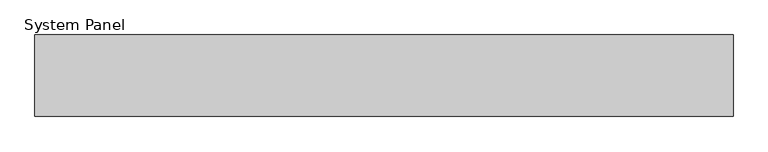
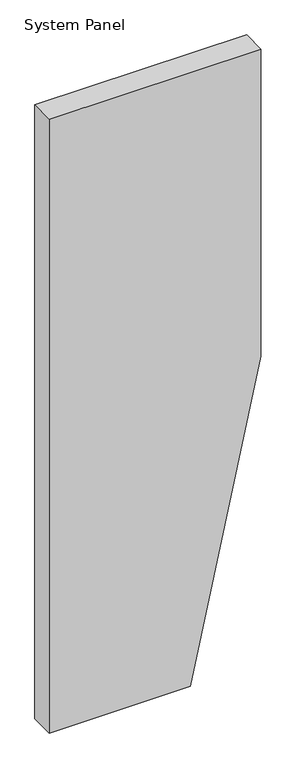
"""IFC4 building model written with IfcOpenShell, lengths in millimetres: plate geometry, System Panel : InsulWall_140mm_Plain_Surfmist."""

from ifc_helpers import new_model, si_unit, frame, origin, place, context, project, spatial, polyline, outline, extrude, source, transform, mapped, element, save


def system_panel_09da17d3(model_context):
    return source(origin(), model_context, "Body", "SweptSolid", [
        extrude(outline(polyline([(0.0, -600.0), (0.0, 200.0), (1839.9852118, 600.0), (3679.9704237, 600.0), (3679.9704237, -600.0), (0.0, -600.0)])), frame((0.0, -140.0, 0.0), z_axis=(0.0, 1.0, 0.0), x_axis=(0.0, 0.0, 1.0)), (0.0, 0.0, 1.0), 140.0),
    ])


if __name__ == "__main__":
    model = new_model("IFC4")
    model_context = context("Model", 3, world=origin())
    ifc_project = project(units=[si_unit("LENGTHUNIT", "METRE", prefix="MILLI")], contexts=[model_context])
    site = spatial("IfcSite", under=ifc_project)
    building = spatial("IfcBuilding", under=site)
    placement = place(None, origin())
    system_panel_shape = system_panel_09da17d3(model_context)
    element("IfcPlate", 1, ObjectType="System Panel : InsulWall_140mm_Plain_Surfmist", at=placement, inside=building, context=model_context, shape_type="MappedRepresentation", body=[
        mapped(system_panel_shape, transform((0.0, 0.0, 0.0), x_axis=(1.0, 0.0, 0.0), y_axis=(0.0, 1.0, 0.0), z_axis=(0.0, 0.0, 1.0))),
    ])
    save(model, "model.ifc")
